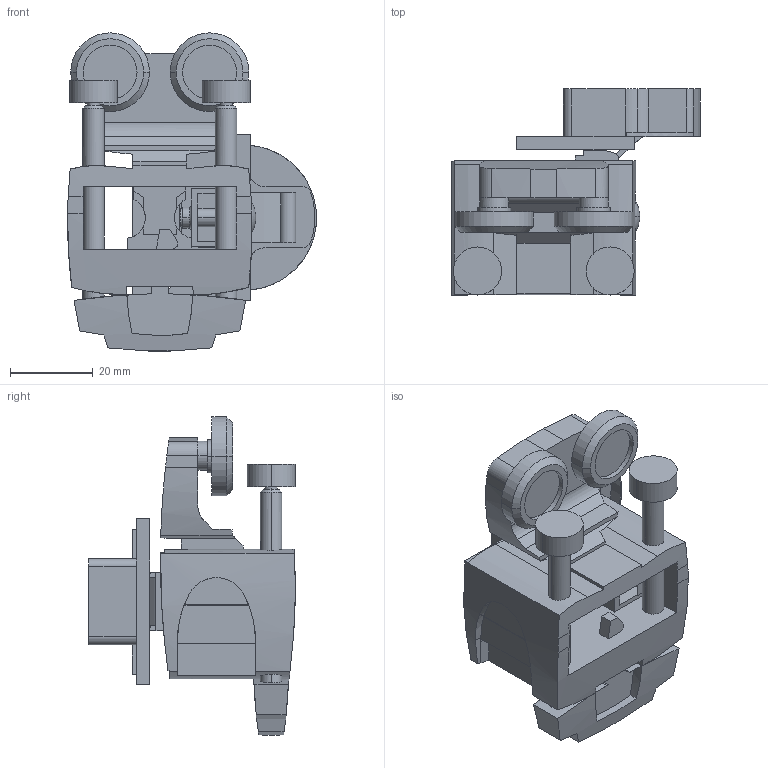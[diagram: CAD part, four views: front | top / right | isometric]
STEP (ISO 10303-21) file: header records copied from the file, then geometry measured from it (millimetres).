
FILE_DESCRIPTION( ( '' ), '1' );
FILE_NAME( 'C:/Users/dhek/Desktop/New folder/SAT., STP., IGS/Wingline L/9237484.stp', '2017-09-14T10:42:21', ( '' ), ( '' ), ' ', ' ', ' ' );
FILE_SCHEMA( ( 'CONFIG_CONTROL_DESIGN' ) );
Length unit declared in the file: millimetre
Products named in the file (1): 1
Bounding box: 60.03 x 49.8 x 76.8 mm (x, y, z)
Volume: 48664.8 mm3; surface area: 26046.4 mm2
Topology: 1 solids, 1 shells, 448 faces, 1306 edges, 862 vertices
Faces by surface type: plane 287, cylinder 147, cone 10, torus 4
Entity records: 15675 total; most frequent: CARTESIAN_POINT 3528, ORIENTED_EDGE 2608, DIRECTION 2452, EDGE_CURVE 1304, LINE 902, VECTOR 902, VERTEX_POINT 862, AXIS2_PLACEMENT_3D 775
